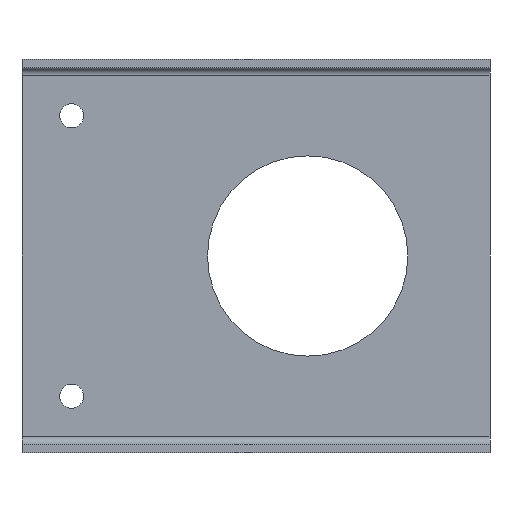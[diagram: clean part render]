
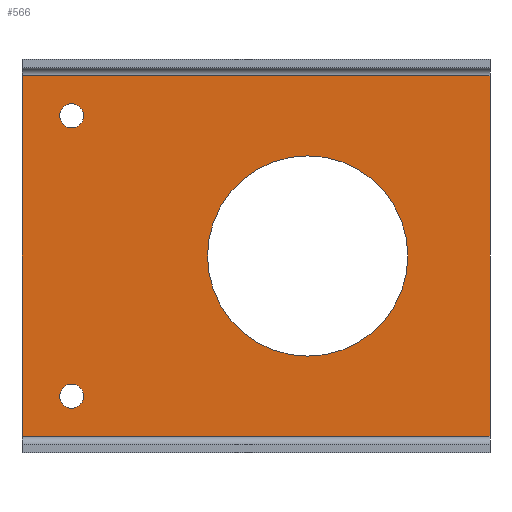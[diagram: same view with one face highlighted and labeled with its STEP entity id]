
A CAD part, front view. The second image highlights one B-rep face of the part: STEP entity #566.
In plain terms, the highlighted planar face has unit normal (0, -1, 0).
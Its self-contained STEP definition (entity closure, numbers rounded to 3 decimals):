
#61=LINE('',#891,#121);
#70=LINE('',#917,#130);
#72=LINE('',#920,#132);
#74=LINE('',#924,#134);
#121=VECTOR('',#728,58.4);
#130=VECTOR('',#759,58.4);
#132=VECTOR('',#763,44.953);
#134=VECTOR('',#769,44.953);
#160=PLANE('',#615);
#167=FACE_BOUND('',#242,.T.);
#168=FACE_BOUND('',#243,.T.);
#169=FACE_BOUND('',#244,.T.);
#202=FACE_OUTER_BOUND('',#241,.T.);
#241=EDGE_LOOP('',(#520,#521,#522,#523));
#242=EDGE_LOOP('',(#524));
#243=EDGE_LOOP('',(#525));
#244=EDGE_LOOP('',(#526));
#245=CIRCLE('',#570,12.5);
#248=CIRCLE('',#574,1.5);
#250=CIRCLE('',#577,1.5);
#259=VERTEX_POINT('',#774);
#262=VERTEX_POINT('',#781);
#264=VERTEX_POINT('',#786);
#297=VERTEX_POINT('',#880);
#298=VERTEX_POINT('',#884);
#303=VERTEX_POINT('',#908);
#304=VERTEX_POINT('',#912);
#305=EDGE_CURVE('',#259,#259,#245,.T.);
#308=EDGE_CURVE('',#262,#262,#248,.T.);
#310=EDGE_CURVE('',#264,#264,#250,.T.);
#361=EDGE_CURVE('',#297,#298,#61,.T.);
#374=EDGE_CURVE('',#303,#304,#70,.T.);
#376=EDGE_CURVE('',#303,#298,#72,.T.);
#378=EDGE_CURVE('',#297,#304,#74,.T.);
#520=ORIENTED_EDGE('',*,*,#361,.T.);
#521=ORIENTED_EDGE('',*,*,#376,.F.);
#522=ORIENTED_EDGE('',*,*,#374,.T.);
#523=ORIENTED_EDGE('',*,*,#378,.F.);
#524=ORIENTED_EDGE('',*,*,#305,.T.);
#525=ORIENTED_EDGE('',*,*,#308,.T.);
#526=ORIENTED_EDGE('',*,*,#310,.T.);
#566=ADVANCED_FACE('',(#202,#167,#168,#169),#160,.F.);
#570=AXIS2_PLACEMENT_3D('',#775,#620,#621);
#574=AXIS2_PLACEMENT_3D('',#782,#628,#629);
#577=AXIS2_PLACEMENT_3D('',#787,#634,#635);
#615=AXIS2_PLACEMENT_3D('',#925,#770,#771);
#620=DIRECTION('center_axis',(0.,1.,0.));
#621=DIRECTION('ref_axis',(-1.,0.,0.));
#628=DIRECTION('center_axis',(0.,1.,0.));
#629=DIRECTION('ref_axis',(1.,0.,0.));
#634=DIRECTION('center_axis',(0.,1.,0.));
#635=DIRECTION('ref_axis',(1.,0.,0.));
#728=DIRECTION('',(1.,0.,0.));
#759=DIRECTION('',(-1.,0.,0.));
#763=DIRECTION('',(0.,0.,-1.));
#769=DIRECTION('',(0.,0.,1.));
#770=DIRECTION('center_axis',(0.,1.,0.));
#771=DIRECTION('ref_axis',(0.,0.,1.));
#774=CARTESIAN_POINT('',(18.95,0.,0.));
#775=CARTESIAN_POINT('Origin',(6.45,0.,0.));
#781=CARTESIAN_POINT('',(-21.5,0.,17.5));
#782=CARTESIAN_POINT('Origin',(-23.,0.,17.5));
#786=CARTESIAN_POINT('',(-21.5,0.,-17.5));
#787=CARTESIAN_POINT('Origin',(-23.,0.,-17.5));
#880=CARTESIAN_POINT('',(-29.2,0.,-22.476));
#884=CARTESIAN_POINT('',(29.2,0.,-22.476));
#891=CARTESIAN_POINT('',(10.795,0.,-22.476));
#908=CARTESIAN_POINT('',(29.2,0.,22.476));
#912=CARTESIAN_POINT('',(-29.2,0.,22.476));
#917=CARTESIAN_POINT('',(-18.405,0.,22.476));
#920=CARTESIAN_POINT('',(29.2,0.,23.5));
#924=CARTESIAN_POINT('',(-29.2,0.,-23.5));
#925=CARTESIAN_POINT('Origin',(-7.609,0.,-7.609));
